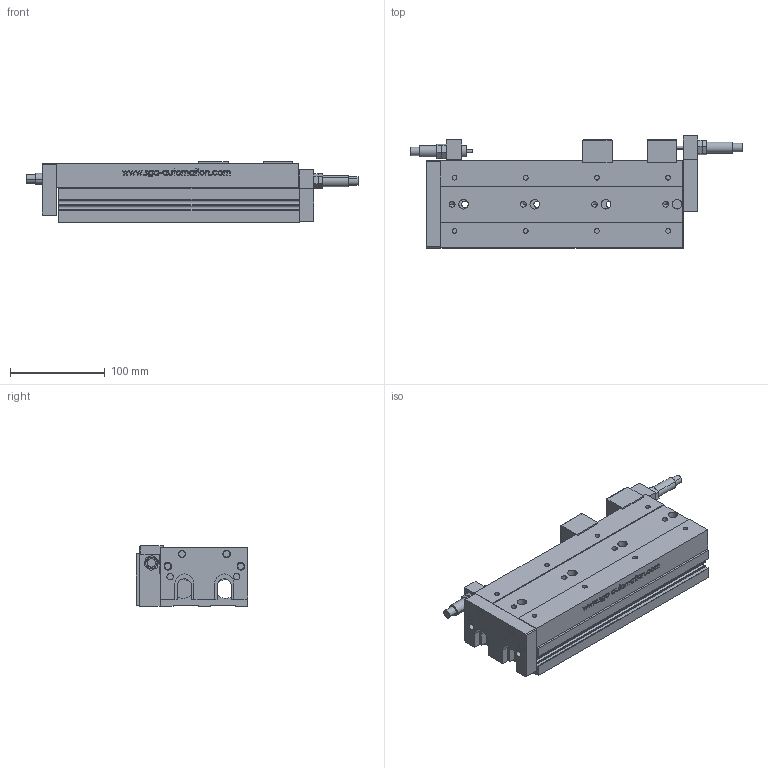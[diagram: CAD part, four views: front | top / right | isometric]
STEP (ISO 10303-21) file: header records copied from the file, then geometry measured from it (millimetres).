
FILE_DESCRIPTION (( 'STEP AP203' ), '1' );
FILE_NAME ('GDX 25-125.STEP', '2013-02-28T13:35:30', ( 'Conseil Régional Haute-Normandie' ), ( 'Conseil Régional Haute-Normandie' ), 'SwSTEP 2.0', 'SolidWorks 2010', '' );
FILE_SCHEMA (( 'CONFIG_CONTROL_DESIGN' ));
Length unit declared in the file: millimetre
Products named in the file (14): Pièce3 GDX25-125_Default; Pièce2 GDX25-125_Default; Pièce6 boulon GDX25-10_Default; Pièce7 amortisseur GDX25-10_Default; GDX 25-125; Pièce4 GDX 25-125_Default; Pièce5 GDX25-125_Default; Pièce1 GDX25-10_Default; Pièce3 GDX25-10_Default; Pièce4 GDX25-10_Default; Pièce5 GDX25-10_Default; Pièce8 tige amortisseur GDX25-10_Default; Pièce17 GDX 25-10_Default; Pièce16 GDX 25-10_Default
Assembly tree (32 placements, depth 2):
  GDX 25-125
    Pièce16 GDX 25-10_Default  x4
    Pièce17 GDX 25-10_Default  x10
    Pièce5 GDX25-10_Default
    Pièce6 boulon GDX25-10_Default  x4
    Pièce2 GDX25-125_Default
    Pièce3 GDX25-10_Default
    Pièce3 GDX25-125_Default  x2
    Pièce7 amortisseur GDX25-10_Default  x2
    Pièce8 tige amortisseur GDX25-10_Default  x2
    Pièce1 GDX25-10_Default
    Pièce4 GDX 25-125_Default
    Pièce5 GDX25-125_Default
    Pièce4 GDX25-10_Default  x2
Bounding box: 349.81 x 118 x 63.5 mm (x, y, z)
Volume: 1294532.1 mm3; surface area: 304043.1 mm2
Topology: 32 solids, 32 shells, 856 faces, 2164 edges, 1398 vertices
Faces by surface type: plane 405, cylinder 262, bspline 133, cone 48, torus 8
Entity records: 33732 total; most frequent: CARTESIAN_POINT 15092, ORIENTED_EDGE 3584, DIRECTION 3078, EDGE_CURVE 1792, VERTEX_POINT 1182, LINE 1146, VECTOR 1146, AXIS2_PLACEMENT_3D 966
